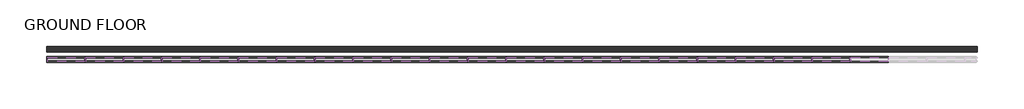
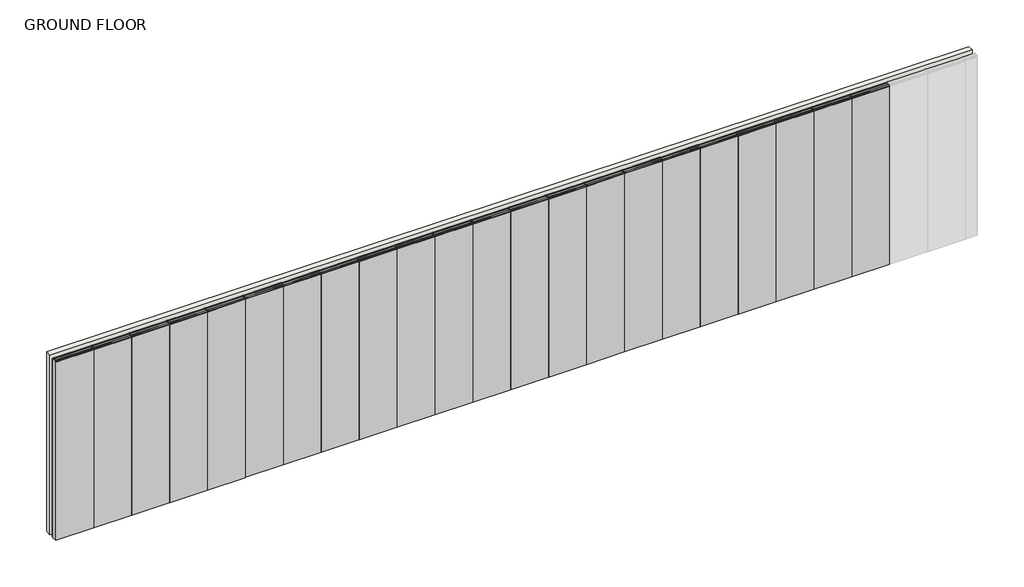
# One storey, part 1 of 2: 64 members, 22 plates, 1 wall.
"""IFC4 building model written with IfcOpenShell, lengths in millimetres."""

from ifc_helpers import new_model, si_unit, origin, origin_with_axes, place, context, project, spatial, polyline, outline, extrude, transform, mapped, element, save
from components import rectangular_mullion_stud_mullion_63mm_af775e70, rectangular_mullion_stud_mullion_63mm_2c4afd4c, rectangular_mullion_stud_mullion_63mm_ab3eab4e, rectangular_mullion_stud_mullion_63mm_08592bac, plate_2_layer_drywall_panels_2_layer_15mm_drywall_panels_7b1b0b35

model = new_model("IFC4")

# Units and contexts
model_context = context("Model", 3, world=origin())
ifc_project = project(units=[si_unit("LENGTHUNIT", "METRE", prefix="MILLI")], contexts=[model_context])

# Site, building, storey
site = spatial("IfcSite", under=ifc_project)
building = spatial("IfcBuilding", under=site)
storey = spatial("IfcBuildingStorey", under=building, Name="GROUND FLOOR", Elevation=0.0)

# Members
placement = place(None, origin())
rectangular_mullion_stud_mullion_63mm_shape = rectangular_mullion_stud_mullion_63mm_af775e70(model_context)
element("IfcMember", 1, ObjectType="Rectangular Mullion : Stud Mullion - 63mm", at=placement, inside=storey, context=model_context, shape_type="MappedRepresentation", body=[
    mapped(rectangular_mullion_stud_mullion_63mm_shape, transform((61654.5186508, -37259.4010443, 0.0), x_axis=(0.0, 0.0, -1.0), y_axis=(0.0, -1.0, 0.0), z_axis=(-1.0, 0.0, 0.0))),
])
element("IfcMember", 2, ObjectType="Rectangular Mullion : Stud Mullion - 63mm", at=placement, inside=storey, context=model_context, shape_type="MappedRepresentation", body=[
    mapped(rectangular_mullion_stud_mullion_63mm_shape, transform((62254.5186511, -37259.4010443, 0.0), x_axis=(0.0, 0.0, -1.0), y_axis=(0.0, -1.0, 0.0), z_axis=(-1.0, 0.0, 0.0))),
])
element("IfcMember", 3, ObjectType="Rectangular Mullion : Stud Mullion - 63mm", at=placement, inside=storey, context=model_context, shape_type="MappedRepresentation", body=[
    mapped(rectangular_mullion_stud_mullion_63mm_shape, transform((62854.5186511, -37259.4010443, 0.0), x_axis=(0.0, 0.0, -1.0), y_axis=(0.0, -1.0, 0.0), z_axis=(-1.0, 0.0, 0.0))),
])
element("IfcMember", 4, ObjectType="Rectangular Mullion : Stud Mullion - 63mm", at=placement, inside=storey, context=model_context, shape_type="MappedRepresentation", body=[
    mapped(rectangular_mullion_stud_mullion_63mm_shape, transform((63454.5186511, -37259.4010443, 0.0), x_axis=(0.0, 0.0, -1.0), y_axis=(0.0, -1.0, 0.0), z_axis=(-1.0, 0.0, 0.0))),
])
element("IfcMember", 5, ObjectType="Rectangular Mullion : Stud Mullion - 63mm", at=placement, inside=storey, context=model_context, shape_type="MappedRepresentation", body=[
    mapped(rectangular_mullion_stud_mullion_63mm_shape, transform((64054.5186511, -37259.4010443, 0.0), x_axis=(0.0, 0.0, -1.0), y_axis=(0.0, -1.0, 0.0), z_axis=(-1.0, 0.0, 0.0))),
])
element("IfcMember", 6, ObjectType="Rectangular Mullion : Stud Mullion - 63mm", at=placement, inside=storey, context=model_context, shape_type="MappedRepresentation", body=[
    mapped(rectangular_mullion_stud_mullion_63mm_shape, transform((64654.5186511, -37259.4010443, 0.0), x_axis=(0.0, 0.0, -1.0), y_axis=(0.0, -1.0, 0.0), z_axis=(-1.0, 0.0, 0.0))),
])
element("IfcMember", 7, ObjectType="Rectangular Mullion : Stud Mullion - 63mm", at=placement, inside=storey, context=model_context, shape_type="MappedRepresentation", body=[
    mapped(rectangular_mullion_stud_mullion_63mm_shape, transform((65254.5186511, -37259.4010443, 0.0), x_axis=(0.0, 0.0, -1.0), y_axis=(0.0, -1.0, 0.0), z_axis=(-1.0, 0.0, 0.0))),
])
element("IfcMember", 8, ObjectType="Rectangular Mullion : Stud Mullion - 63mm", at=placement, inside=storey, context=model_context, shape_type="MappedRepresentation", body=[
    mapped(rectangular_mullion_stud_mullion_63mm_shape, transform((65854.5186511, -37259.4010443, 0.0), x_axis=(0.0, 0.0, -1.0), y_axis=(0.0, -1.0, 0.0), z_axis=(-1.0, 0.0, 0.0))),
])
element("IfcMember", 9, ObjectType="Rectangular Mullion : Stud Mullion - 63mm", at=placement, inside=storey, context=model_context, shape_type="MappedRepresentation", body=[
    mapped(rectangular_mullion_stud_mullion_63mm_shape, transform((66454.5186511, -37259.4010443, 0.0), x_axis=(0.0, 0.0, -1.0), y_axis=(0.0, -1.0, 0.0), z_axis=(-1.0, 0.0, 0.0))),
])
element("IfcMember", 10, ObjectType="Rectangular Mullion : Stud Mullion - 63mm", at=placement, inside=storey, context=model_context, shape_type="MappedRepresentation", body=[
    mapped(rectangular_mullion_stud_mullion_63mm_shape, transform((67054.5186511, -37259.4010443, 0.0), x_axis=(0.0, 0.0, -1.0), y_axis=(0.0, -1.0, 0.0), z_axis=(-1.0, 0.0, 0.0))),
])
element("IfcMember", 11, ObjectType="Rectangular Mullion : Stud Mullion - 63mm", at=placement, inside=storey, context=model_context, shape_type="MappedRepresentation", body=[
    mapped(rectangular_mullion_stud_mullion_63mm_shape, transform((67654.5186511, -37259.4010443, 0.0), x_axis=(0.0, 0.0, -1.0), y_axis=(0.0, -1.0, 0.0), z_axis=(-1.0, 0.0, 0.0))),
])
element("IfcMember", 12, ObjectType="Rectangular Mullion : Stud Mullion - 63mm", at=placement, inside=storey, context=model_context, shape_type="MappedRepresentation", body=[
    mapped(rectangular_mullion_stud_mullion_63mm_shape, transform((68254.5186511, -37259.4010443, 0.0), x_axis=(0.0, 0.0, -1.0), y_axis=(0.0, -1.0, 0.0), z_axis=(-1.0, 0.0, 0.0))),
])
element("IfcMember", 13, ObjectType="Rectangular Mullion : Stud Mullion - 63mm", at=placement, inside=storey, context=model_context, shape_type="MappedRepresentation", body=[
    mapped(rectangular_mullion_stud_mullion_63mm_shape, transform((68854.5186511, -37259.4010443, 0.0), x_axis=(0.0, 0.0, -1.0), y_axis=(0.0, -1.0, 0.0), z_axis=(-1.0, 0.0, 0.0))),
])
element("IfcMember", 14, ObjectType="Rectangular Mullion : Stud Mullion - 63mm", at=placement, inside=storey, context=model_context, shape_type="MappedRepresentation", body=[
    mapped(rectangular_mullion_stud_mullion_63mm_shape, transform((69454.5186511, -37259.4010443, 0.0), x_axis=(0.0, 0.0, -1.0), y_axis=(0.0, -1.0, 0.0), z_axis=(-1.0, 0.0, 0.0))),
])
element("IfcMember", 15, ObjectType="Rectangular Mullion : Stud Mullion - 63mm", at=placement, inside=storey, context=model_context, shape_type="MappedRepresentation", body=[
    mapped(rectangular_mullion_stud_mullion_63mm_shape, transform((70054.5186511, -37259.4010443, 0.0), x_axis=(0.0, 0.0, -1.0), y_axis=(0.0, -1.0, 0.0), z_axis=(-1.0, 0.0, 0.0))),
])
element("IfcMember", 16, ObjectType="Rectangular Mullion : Stud Mullion - 63mm", at=placement, inside=storey, context=model_context, shape_type="MappedRepresentation", body=[
    mapped(rectangular_mullion_stud_mullion_63mm_shape, transform((70654.5186511, -37259.4010443, 0.0), x_axis=(0.0, 0.0, -1.0), y_axis=(0.0, -1.0, 0.0), z_axis=(-1.0, 0.0, 0.0))),
])
element("IfcMember", 17, ObjectType="Rectangular Mullion : Stud Mullion - 63mm", at=placement, inside=storey, context=model_context, shape_type="MappedRepresentation", body=[
    mapped(rectangular_mullion_stud_mullion_63mm_shape, transform((71254.5186511, -37259.4010443, 0.0), x_axis=(0.0, 0.0, -1.0), y_axis=(0.0, -1.0, 0.0), z_axis=(-1.0, 0.0, 0.0))),
])
element("IfcMember", 18, ObjectType="Rectangular Mullion : Stud Mullion - 63mm", at=placement, inside=storey, context=model_context, shape_type="MappedRepresentation", body=[
    mapped(rectangular_mullion_stud_mullion_63mm_shape, transform((71854.5186511, -37259.4010443, 0.0), x_axis=(0.0, 0.0, -1.0), y_axis=(0.0, -1.0, 0.0), z_axis=(-1.0, 0.0, 0.0))),
])
element("IfcMember", 19, ObjectType="Rectangular Mullion : Stud Mullion - 63mm", at=placement, inside=storey, context=model_context, shape_type="MappedRepresentation", body=[
    mapped(rectangular_mullion_stud_mullion_63mm_shape, transform((72454.5186511, -37259.4010443, 0.0), x_axis=(0.0, 0.0, -1.0), y_axis=(0.0, -1.0, 0.0), z_axis=(-1.0, 0.0, 0.0))),
])
element("IfcMember", 20, ObjectType="Rectangular Mullion : Stud Mullion - 63mm", at=placement, inside=storey, context=model_context, shape_type="MappedRepresentation", body=[
    mapped(rectangular_mullion_stud_mullion_63mm_shape, transform((73054.5186511, -37259.4010443, 0.0), x_axis=(0.0, 0.0, -1.0), y_axis=(0.0, -1.0, 0.0), z_axis=(-1.0, 0.0, 0.0))),
])
element("IfcMember", 21, ObjectType="Rectangular Mullion : Stud Mullion - 63mm", at=placement, inside=storey, context=model_context, shape_type="MappedRepresentation", body=[
    mapped(rectangular_mullion_stud_mullion_63mm_shape, transform((73654.5186511, -37259.4010443, 0.0), x_axis=(0.0, 0.0, -1.0), y_axis=(0.0, -1.0, 0.0), z_axis=(-1.0, 0.0, 0.0))),
])
rectangular_mullion_stud_mullion_63mm_2_shape = rectangular_mullion_stud_mullion_63mm_2c4afd4c(model_context)
element("IfcMember", 22, ObjectType="Rectangular Mullion : Stud Mullion - 63mm", at=placement, inside=storey, context=model_context, shape_type="MappedRepresentation", body=[
    mapped(rectangular_mullion_stud_mullion_63mm_2_shape, transform((61635.5186508, -37259.4010443, 3000.0), x_axis=(-1.0, 0.0, 0.0), y_axis=(0.0, -1.0, 0.0), z_axis=(0.0, 0.0, 1.0))),
])
rectangular_mullion_stud_mullion_63mm_3_shape = rectangular_mullion_stud_mullion_63mm_ab3eab4e(model_context)
element("IfcMember", 23, ObjectType="Rectangular Mullion : Stud Mullion - 63mm", at=placement, inside=storey, context=model_context, shape_type="MappedRepresentation", body=[
    mapped(rectangular_mullion_stud_mullion_63mm_3_shape, transform((62235.5186511, -37259.4010443, 3000.0), x_axis=(0.0, 0.0, 1.0), y_axis=(0.0, -1.0, 0.0), z_axis=(1.0, 0.0, 0.0))),
])
element("IfcMember", 24, ObjectType="Rectangular Mullion : Stud Mullion - 63mm", at=placement, inside=storey, context=model_context, shape_type="MappedRepresentation", body=[
    mapped(rectangular_mullion_stud_mullion_63mm_3_shape, transform((62835.5186511, -37259.4010443, 3000.0), x_axis=(0.0, 0.0, 1.0), y_axis=(0.0, -1.0, 0.0), z_axis=(1.0, 0.0, 0.0))),
])
element("IfcMember", 25, ObjectType="Rectangular Mullion : Stud Mullion - 63mm", at=placement, inside=storey, context=model_context, shape_type="MappedRepresentation", body=[
    mapped(rectangular_mullion_stud_mullion_63mm_3_shape, transform((63435.5186511, -37259.4010443, 3000.0), x_axis=(0.0, 0.0, 1.0), y_axis=(0.0, -1.0, 0.0), z_axis=(1.0, 0.0, 0.0))),
])
element("IfcMember", 26, ObjectType="Rectangular Mullion : Stud Mullion - 63mm", at=placement, inside=storey, context=model_context, shape_type="MappedRepresentation", body=[
    mapped(rectangular_mullion_stud_mullion_63mm_3_shape, transform((64035.5186511, -37259.4010443, 3000.0), x_axis=(0.0, 0.0, 1.0), y_axis=(0.0, -1.0, 0.0), z_axis=(1.0, 0.0, 0.0))),
])
element("IfcMember", 27, ObjectType="Rectangular Mullion : Stud Mullion - 63mm", at=placement, inside=storey, context=model_context, shape_type="MappedRepresentation", body=[
    mapped(rectangular_mullion_stud_mullion_63mm_3_shape, transform((64635.5186511, -37259.4010443, 3000.0), x_axis=(0.0, 0.0, 1.0), y_axis=(0.0, -1.0, 0.0), z_axis=(1.0, 0.0, 0.0))),
])
element("IfcMember", 28, ObjectType="Rectangular Mullion : Stud Mullion - 63mm", at=placement, inside=storey, context=model_context, shape_type="MappedRepresentation", body=[
    mapped(rectangular_mullion_stud_mullion_63mm_3_shape, transform((65235.5186511, -37259.4010443, 3000.0), x_axis=(0.0, 0.0, 1.0), y_axis=(0.0, -1.0, 0.0), z_axis=(1.0, 0.0, 0.0))),
])
element("IfcMember", 29, ObjectType="Rectangular Mullion : Stud Mullion - 63mm", at=placement, inside=storey, context=model_context, shape_type="MappedRepresentation", body=[
    mapped(rectangular_mullion_stud_mullion_63mm_3_shape, transform((65835.5186511, -37259.4010443, 3000.0), x_axis=(0.0, 0.0, 1.0), y_axis=(0.0, -1.0, 0.0), z_axis=(1.0, 0.0, 0.0))),
])
element("IfcMember", 30, ObjectType="Rectangular Mullion : Stud Mullion - 63mm", at=placement, inside=storey, context=model_context, shape_type="MappedRepresentation", body=[
    mapped(rectangular_mullion_stud_mullion_63mm_3_shape, transform((66435.5186511, -37259.4010443, 3000.0), x_axis=(0.0, 0.0, 1.0), y_axis=(0.0, -1.0, 0.0), z_axis=(1.0, 0.0, 0.0))),
])
element("IfcMember", 31, ObjectType="Rectangular Mullion : Stud Mullion - 63mm", at=placement, inside=storey, context=model_context, shape_type="MappedRepresentation", body=[
    mapped(rectangular_mullion_stud_mullion_63mm_3_shape, transform((67035.5186511, -37259.4010443, 3000.0), x_axis=(0.0, 0.0, 1.0), y_axis=(0.0, -1.0, 0.0), z_axis=(1.0, 0.0, 0.0))),
])
element("IfcMember", 32, ObjectType="Rectangular Mullion : Stud Mullion - 63mm", at=placement, inside=storey, context=model_context, shape_type="MappedRepresentation", body=[
    mapped(rectangular_mullion_stud_mullion_63mm_3_shape, transform((67635.5186511, -37259.4010443, 3000.0), x_axis=(0.0, 0.0, 1.0), y_axis=(0.0, -1.0, 0.0), z_axis=(1.0, 0.0, 0.0))),
])
element("IfcMember", 33, ObjectType="Rectangular Mullion : Stud Mullion - 63mm", at=placement, inside=storey, context=model_context, shape_type="MappedRepresentation", body=[
    mapped(rectangular_mullion_stud_mullion_63mm_3_shape, transform((68235.5186511, -37259.4010443, 3000.0), x_axis=(0.0, 0.0, 1.0), y_axis=(0.0, -1.0, 0.0), z_axis=(1.0, 0.0, 0.0))),
])
element("IfcMember", 34, ObjectType="Rectangular Mullion : Stud Mullion - 63mm", at=placement, inside=storey, context=model_context, shape_type="MappedRepresentation", body=[
    mapped(rectangular_mullion_stud_mullion_63mm_3_shape, transform((68835.5186511, -37259.4010443, 3000.0), x_axis=(0.0, 0.0, 1.0), y_axis=(0.0, -1.0, 0.0), z_axis=(1.0, 0.0, 0.0))),
])
element("IfcMember", 35, ObjectType="Rectangular Mullion : Stud Mullion - 63mm", at=placement, inside=storey, context=model_context, shape_type="MappedRepresentation", body=[
    mapped(rectangular_mullion_stud_mullion_63mm_3_shape, transform((69435.5186511, -37259.4010443, 3000.0), x_axis=(0.0, 0.0, 1.0), y_axis=(0.0, -1.0, 0.0), z_axis=(1.0, 0.0, 0.0))),
])
element("IfcMember", 36, ObjectType="Rectangular Mullion : Stud Mullion - 63mm", at=placement, inside=storey, context=model_context, shape_type="MappedRepresentation", body=[
    mapped(rectangular_mullion_stud_mullion_63mm_3_shape, transform((70035.5186511, -37259.4010443, 3000.0), x_axis=(0.0, 0.0, 1.0), y_axis=(0.0, -1.0, 0.0), z_axis=(1.0, 0.0, 0.0))),
])
element("IfcMember", 37, ObjectType="Rectangular Mullion : Stud Mullion - 63mm", at=placement, inside=storey, context=model_context, shape_type="MappedRepresentation", body=[
    mapped(rectangular_mullion_stud_mullion_63mm_3_shape, transform((70635.5186511, -37259.4010443, 3000.0), x_axis=(0.0, 0.0, 1.0), y_axis=(0.0, -1.0, 0.0), z_axis=(1.0, 0.0, 0.0))),
])
element("IfcMember", 38, ObjectType="Rectangular Mullion : Stud Mullion - 63mm", at=placement, inside=storey, context=model_context, shape_type="MappedRepresentation", body=[
    mapped(rectangular_mullion_stud_mullion_63mm_3_shape, transform((71235.5186511, -37259.4010443, 3000.0), x_axis=(0.0, 0.0, 1.0), y_axis=(0.0, -1.0, 0.0), z_axis=(1.0, 0.0, 0.0))),
])
element("IfcMember", 39, ObjectType="Rectangular Mullion : Stud Mullion - 63mm", at=placement, inside=storey, context=model_context, shape_type="MappedRepresentation", body=[
    mapped(rectangular_mullion_stud_mullion_63mm_3_shape, transform((71835.5186511, -37259.4010443, 3000.0), x_axis=(0.0, 0.0, 1.0), y_axis=(0.0, -1.0, 0.0), z_axis=(1.0, 0.0, 0.0))),
])
element("IfcMember", 40, ObjectType="Rectangular Mullion : Stud Mullion - 63mm", at=placement, inside=storey, context=model_context, shape_type="MappedRepresentation", body=[
    mapped(rectangular_mullion_stud_mullion_63mm_3_shape, transform((72435.5186511, -37259.4010443, 3000.0), x_axis=(0.0, 0.0, 1.0), y_axis=(0.0, -1.0, 0.0), z_axis=(1.0, 0.0, 0.0))),
])
element("IfcMember", 41, ObjectType="Rectangular Mullion : Stud Mullion - 63mm", at=placement, inside=storey, context=model_context, shape_type="MappedRepresentation", body=[
    mapped(rectangular_mullion_stud_mullion_63mm_3_shape, transform((73035.5186511, -37259.4010443, 3000.0), x_axis=(0.0, 0.0, 1.0), y_axis=(0.0, -1.0, 0.0), z_axis=(1.0, 0.0, 0.0))),
])
element("IfcMember", 42, ObjectType="Rectangular Mullion : Stud Mullion - 63mm", at=placement, inside=storey, context=model_context, shape_type="MappedRepresentation", body=[
    mapped(rectangular_mullion_stud_mullion_63mm_3_shape, transform((73635.5186511, -37259.4010443, 3000.0), x_axis=(0.0, 0.0, 1.0), y_axis=(0.0, -1.0, 0.0), z_axis=(1.0, 0.0, 0.0))),
])
element("IfcMember", 43, ObjectType="Rectangular Mullion : Stud Mullion - 63mm", at=placement, inside=storey, context=model_context, shape_type="MappedRepresentation", body=[
    mapped(rectangular_mullion_stud_mullion_63mm_3_shape, transform((74235.5186511, -37259.4010443, 3000.0), x_axis=(0.0, 0.0, 1.0), y_axis=(0.0, -1.0, 0.0), z_axis=(1.0, 0.0, 0.0))),
])
element("IfcMember", 44, ObjectType="Rectangular Mullion : Stud Mullion - 63mm", at=placement, inside=storey, context=model_context, shape_type="MappedRepresentation", body=[
    mapped(rectangular_mullion_stud_mullion_63mm_3_shape, transform((74835.5186511, -37259.4010443, 3000.0), x_axis=(0.0, 0.0, 1.0), y_axis=(0.0, -1.0, 0.0), z_axis=(1.0, 0.0, 0.0))),
])
rectangular_mullion_stud_mullion_63mm_4_shape = rectangular_mullion_stud_mullion_63mm_08592bac(model_context)
element("IfcMember", 45, ObjectType="Rectangular Mullion : Stud Mullion - 63mm", at=placement, inside=storey, context=model_context, shape_type="MappedRepresentation", body=[
    mapped(rectangular_mullion_stud_mullion_63mm_4_shape, transform((62245.0186511, -37259.4010443, 0.0), x_axis=(1.0, 0.0, 0.0), y_axis=(0.0, -1.0, 0.0), z_axis=(0.0, 0.0, -1.0))),
])
element("IfcMember", 46, ObjectType="Rectangular Mullion : Stud Mullion - 63mm", at=placement, inside=storey, context=model_context, shape_type="MappedRepresentation", body=[
    mapped(rectangular_mullion_stud_mullion_63mm_4_shape, transform((62845.0186511, -37259.4010443, 0.0), x_axis=(1.0, 0.0, 0.0), y_axis=(0.0, -1.0, 0.0), z_axis=(0.0, 0.0, -1.0))),
])
element("IfcMember", 47, ObjectType="Rectangular Mullion : Stud Mullion - 63mm", at=placement, inside=storey, context=model_context, shape_type="MappedRepresentation", body=[
    mapped(rectangular_mullion_stud_mullion_63mm_4_shape, transform((63445.0186511, -37259.4010443, 0.0), x_axis=(1.0, 0.0, 0.0), y_axis=(0.0, -1.0, 0.0), z_axis=(0.0, 0.0, -1.0))),
])
element("IfcMember", 48, ObjectType="Rectangular Mullion : Stud Mullion - 63mm", at=placement, inside=storey, context=model_context, shape_type="MappedRepresentation", body=[
    mapped(rectangular_mullion_stud_mullion_63mm_4_shape, transform((64045.0186511, -37259.4010443, 0.0), x_axis=(1.0, 0.0, 0.0), y_axis=(0.0, -1.0, 0.0), z_axis=(0.0, 0.0, -1.0))),
])
element("IfcMember", 49, ObjectType="Rectangular Mullion : Stud Mullion - 63mm", at=placement, inside=storey, context=model_context, shape_type="MappedRepresentation", body=[
    mapped(rectangular_mullion_stud_mullion_63mm_4_shape, transform((64645.0186511, -37259.4010443, 0.0), x_axis=(1.0, 0.0, 0.0), y_axis=(0.0, -1.0, 0.0), z_axis=(0.0, 0.0, -1.0))),
])
element("IfcMember", 50, ObjectType="Rectangular Mullion : Stud Mullion - 63mm", at=placement, inside=storey, context=model_context, shape_type="MappedRepresentation", body=[
    mapped(rectangular_mullion_stud_mullion_63mm_4_shape, transform((65245.0186511, -37259.4010443, 0.0), x_axis=(1.0, 0.0, 0.0), y_axis=(0.0, -1.0, 0.0), z_axis=(0.0, 0.0, -1.0))),
])
element("IfcMember", 51, ObjectType="Rectangular Mullion : Stud Mullion - 63mm", at=placement, inside=storey, context=model_context, shape_type="MappedRepresentation", body=[
    mapped(rectangular_mullion_stud_mullion_63mm_4_shape, transform((65845.0186511, -37259.4010443, 0.0), x_axis=(1.0, 0.0, 0.0), y_axis=(0.0, -1.0, 0.0), z_axis=(0.0, 0.0, -1.0))),
])
element("IfcMember", 52, ObjectType="Rectangular Mullion : Stud Mullion - 63mm", at=placement, inside=storey, context=model_context, shape_type="MappedRepresentation", body=[
    mapped(rectangular_mullion_stud_mullion_63mm_4_shape, transform((66445.0186511, -37259.4010443, 0.0), x_axis=(1.0, 0.0, 0.0), y_axis=(0.0, -1.0, 0.0), z_axis=(0.0, 0.0, -1.0))),
])
element("IfcMember", 53, ObjectType="Rectangular Mullion : Stud Mullion - 63mm", at=placement, inside=storey, context=model_context, shape_type="MappedRepresentation", body=[
    mapped(rectangular_mullion_stud_mullion_63mm_4_shape, transform((67045.0186511, -37259.4010443, 0.0), x_axis=(1.0, 0.0, 0.0), y_axis=(0.0, -1.0, 0.0), z_axis=(0.0, 0.0, -1.0))),
])
element("IfcMember", 54, ObjectType="Rectangular Mullion : Stud Mullion - 63mm", at=placement, inside=storey, context=model_context, shape_type="MappedRepresentation", body=[
    mapped(rectangular_mullion_stud_mullion_63mm_4_shape, transform((67645.0186511, -37259.4010443, 0.0), x_axis=(1.0, 0.0, 0.0), y_axis=(0.0, -1.0, 0.0), z_axis=(0.0, 0.0, -1.0))),
])
element("IfcMember", 55, ObjectType="Rectangular Mullion : Stud Mullion - 63mm", at=placement, inside=storey, context=model_context, shape_type="MappedRepresentation", body=[
    mapped(rectangular_mullion_stud_mullion_63mm_4_shape, transform((68245.0186511, -37259.4010443, 0.0), x_axis=(1.0, 0.0, 0.0), y_axis=(0.0, -1.0, 0.0), z_axis=(0.0, 0.0, -1.0))),
])
element("IfcMember", 56, ObjectType="Rectangular Mullion : Stud Mullion - 63mm", at=placement, inside=storey, context=model_context, shape_type="MappedRepresentation", body=[
    mapped(rectangular_mullion_stud_mullion_63mm_4_shape, transform((68845.0186511, -37259.4010443, 0.0), x_axis=(1.0, 0.0, 0.0), y_axis=(0.0, -1.0, 0.0), z_axis=(0.0, 0.0, -1.0))),
])
element("IfcMember", 57, ObjectType="Rectangular Mullion : Stud Mullion - 63mm", at=placement, inside=storey, context=model_context, shape_type="MappedRepresentation", body=[
    mapped(rectangular_mullion_stud_mullion_63mm_4_shape, transform((69445.0186511, -37259.4010443, 0.0), x_axis=(1.0, 0.0, 0.0), y_axis=(0.0, -1.0, 0.0), z_axis=(0.0, 0.0, -1.0))),
])
element("IfcMember", 58, ObjectType="Rectangular Mullion : Stud Mullion - 63mm", at=placement, inside=storey, context=model_context, shape_type="MappedRepresentation", body=[
    mapped(rectangular_mullion_stud_mullion_63mm_4_shape, transform((70045.0186511, -37259.4010443, 0.0), x_axis=(1.0, 0.0, 0.0), y_axis=(0.0, -1.0, 0.0), z_axis=(0.0, 0.0, -1.0))),
])
element("IfcMember", 59, ObjectType="Rectangular Mullion : Stud Mullion - 63mm", at=placement, inside=storey, context=model_context, shape_type="MappedRepresentation", body=[
    mapped(rectangular_mullion_stud_mullion_63mm_4_shape, transform((70645.0186511, -37259.4010443, 0.0), x_axis=(1.0, 0.0, 0.0), y_axis=(0.0, -1.0, 0.0), z_axis=(0.0, 0.0, -1.0))),
])
element("IfcMember", 60, ObjectType="Rectangular Mullion : Stud Mullion - 63mm", at=placement, inside=storey, context=model_context, shape_type="MappedRepresentation", body=[
    mapped(rectangular_mullion_stud_mullion_63mm_4_shape, transform((71245.0186511, -37259.4010443, 0.0), x_axis=(1.0, 0.0, 0.0), y_axis=(0.0, -1.0, 0.0), z_axis=(0.0, 0.0, -1.0))),
])
element("IfcMember", 61, ObjectType="Rectangular Mullion : Stud Mullion - 63mm", at=placement, inside=storey, context=model_context, shape_type="MappedRepresentation", body=[
    mapped(rectangular_mullion_stud_mullion_63mm_4_shape, transform((71845.0186511, -37259.4010443, 0.0), x_axis=(1.0, 0.0, 0.0), y_axis=(0.0, -1.0, 0.0), z_axis=(0.0, 0.0, -1.0))),
])
element("IfcMember", 62, ObjectType="Rectangular Mullion : Stud Mullion - 63mm", at=placement, inside=storey, context=model_context, shape_type="MappedRepresentation", body=[
    mapped(rectangular_mullion_stud_mullion_63mm_4_shape, transform((72445.0186511, -37259.4010443, 0.0), x_axis=(1.0, 0.0, 0.0), y_axis=(0.0, -1.0, 0.0), z_axis=(0.0, 0.0, -1.0))),
])
element("IfcMember", 63, ObjectType="Rectangular Mullion : Stud Mullion - 63mm", at=placement, inside=storey, context=model_context, shape_type="MappedRepresentation", body=[
    mapped(rectangular_mullion_stud_mullion_63mm_4_shape, transform((73045.0186511, -37259.4010443, 0.0), x_axis=(1.0, 0.0, 0.0), y_axis=(0.0, -1.0, 0.0), z_axis=(0.0, 0.0, -1.0))),
])
element("IfcMember", 64, ObjectType="Rectangular Mullion : Stud Mullion - 63mm", at=placement, inside=storey, context=model_context, shape_type="MappedRepresentation", body=[
    mapped(rectangular_mullion_stud_mullion_63mm_4_shape, transform((73645.0186511, -37259.4010443, 0.0), x_axis=(1.0, 0.0, 0.0), y_axis=(0.0, -1.0, 0.0), z_axis=(0.0, 0.0, -1.0))),
])

# Plates
plate_2_layer_drywall_panels_2_layer_15mm_drywall_panels_shape = plate_2_layer_drywall_panels_2_layer_15mm_drywall_panels_7b1b0b35(model_context)
element("IfcPlate", 65, ObjectType="2 Layer - Drywall Panels : 2 Layer - 15mm Drywall Panels 93mm", at=placement, inside=storey, context=model_context, shape_type="MappedRepresentation", body=[
    mapped(plate_2_layer_drywall_panels_2_layer_15mm_drywall_panels_shape, transform((61936.318651, -37259.4010443, 1.6), x_axis=(1.0, 0.0, 0.0), y_axis=(0.0, 1.0, 0.0), z_axis=(0.0, 0.0, 1.0))),
])
element("IfcPlate", 66, ObjectType="2 Layer - Drywall Panels : 2 Layer - 15mm Drywall Panels 93mm", at=placement, inside=storey, context=model_context, shape_type="MappedRepresentation", body=[
    mapped(plate_2_layer_drywall_panels_2_layer_15mm_drywall_panels_shape, transform((62536.3186511, -37259.4010443, 1.6), x_axis=(1.0, 0.0, 0.0), y_axis=(0.0, 1.0, 0.0), z_axis=(0.0, 0.0, 1.0))),
])
element("IfcPlate", 67, ObjectType="2 Layer - Drywall Panels : 2 Layer - 15mm Drywall Panels 93mm", at=placement, inside=storey, context=model_context, shape_type="MappedRepresentation", body=[
    mapped(plate_2_layer_drywall_panels_2_layer_15mm_drywall_panels_shape, transform((63136.3186511, -37259.4010443, 1.6), x_axis=(1.0, 0.0, 0.0), y_axis=(0.0, 1.0, 0.0), z_axis=(0.0, 0.0, 1.0))),
])
element("IfcPlate", 68, ObjectType="2 Layer - Drywall Panels : 2 Layer - 15mm Drywall Panels 93mm", at=placement, inside=storey, context=model_context, shape_type="MappedRepresentation", body=[
    mapped(plate_2_layer_drywall_panels_2_layer_15mm_drywall_panels_shape, transform((63736.3186511, -37259.4010443, 1.6), x_axis=(1.0, 0.0, 0.0), y_axis=(0.0, 1.0, 0.0), z_axis=(0.0, 0.0, 1.0))),
])
element("IfcPlate", 69, ObjectType="2 Layer - Drywall Panels : 2 Layer - 15mm Drywall Panels 93mm", at=placement, inside=storey, context=model_context, shape_type="MappedRepresentation", body=[
    mapped(plate_2_layer_drywall_panels_2_layer_15mm_drywall_panels_shape, transform((64336.3186511, -37259.4010443, 1.6), x_axis=(1.0, 0.0, 0.0), y_axis=(0.0, 1.0, 0.0), z_axis=(0.0, 0.0, 1.0))),
])
element("IfcPlate", 70, ObjectType="2 Layer - Drywall Panels : 2 Layer - 15mm Drywall Panels 93mm", at=placement, inside=storey, context=model_context, shape_type="MappedRepresentation", body=[
    mapped(plate_2_layer_drywall_panels_2_layer_15mm_drywall_panels_shape, transform((64936.3186511, -37259.4010443, 1.6), x_axis=(1.0, 0.0, 0.0), y_axis=(0.0, 1.0, 0.0), z_axis=(0.0, 0.0, 1.0))),
])
element("IfcPlate", 71, ObjectType="2 Layer - Drywall Panels : 2 Layer - 15mm Drywall Panels 93mm", at=placement, inside=storey, context=model_context, shape_type="MappedRepresentation", body=[
    mapped(plate_2_layer_drywall_panels_2_layer_15mm_drywall_panels_shape, transform((65536.3186511, -37259.4010443, 1.6), x_axis=(1.0, 0.0, 0.0), y_axis=(0.0, 1.0, 0.0), z_axis=(0.0, 0.0, 1.0))),
])
element("IfcPlate", 72, ObjectType="2 Layer - Drywall Panels : 2 Layer - 15mm Drywall Panels 93mm", at=placement, inside=storey, context=model_context, shape_type="MappedRepresentation", body=[
    mapped(plate_2_layer_drywall_panels_2_layer_15mm_drywall_panels_shape, transform((66136.3186511, -37259.4010443, 1.6), x_axis=(1.0, 0.0, 0.0), y_axis=(0.0, 1.0, 0.0), z_axis=(0.0, 0.0, 1.0))),
])
element("IfcPlate", 73, ObjectType="2 Layer - Drywall Panels : 2 Layer - 15mm Drywall Panels 93mm", at=placement, inside=storey, context=model_context, shape_type="MappedRepresentation", body=[
    mapped(plate_2_layer_drywall_panels_2_layer_15mm_drywall_panels_shape, transform((66736.3186511, -37259.4010443, 1.6), x_axis=(1.0, 0.0, 0.0), y_axis=(0.0, 1.0, 0.0), z_axis=(0.0, 0.0, 1.0))),
])
element("IfcPlate", 74, ObjectType="2 Layer - Drywall Panels : 2 Layer - 15mm Drywall Panels 93mm", at=placement, inside=storey, context=model_context, shape_type="MappedRepresentation", body=[
    mapped(plate_2_layer_drywall_panels_2_layer_15mm_drywall_panels_shape, transform((67336.3186511, -37259.4010443, 1.6), x_axis=(1.0, 0.0, 0.0), y_axis=(0.0, 1.0, 0.0), z_axis=(0.0, 0.0, 1.0))),
])
element("IfcPlate", 75, ObjectType="2 Layer - Drywall Panels : 2 Layer - 15mm Drywall Panels 93mm", at=placement, inside=storey, context=model_context, shape_type="MappedRepresentation", body=[
    mapped(plate_2_layer_drywall_panels_2_layer_15mm_drywall_panels_shape, transform((67936.3186511, -37259.4010443, 1.6), x_axis=(1.0, 0.0, 0.0), y_axis=(0.0, 1.0, 0.0), z_axis=(0.0, 0.0, 1.0))),
])
element("IfcPlate", 76, ObjectType="2 Layer - Drywall Panels : 2 Layer - 15mm Drywall Panels 93mm", at=placement, inside=storey, context=model_context, shape_type="MappedRepresentation", body=[
    mapped(plate_2_layer_drywall_panels_2_layer_15mm_drywall_panels_shape, transform((68536.3186511, -37259.4010443, 1.6), x_axis=(1.0, 0.0, 0.0), y_axis=(0.0, 1.0, 0.0), z_axis=(0.0, 0.0, 1.0))),
])
element("IfcPlate", 77, ObjectType="2 Layer - Drywall Panels : 2 Layer - 15mm Drywall Panels 93mm", at=placement, inside=storey, context=model_context, shape_type="MappedRepresentation", body=[
    mapped(plate_2_layer_drywall_panels_2_layer_15mm_drywall_panels_shape, transform((69136.3186511, -37259.4010443, 1.6), x_axis=(1.0, 0.0, 0.0), y_axis=(0.0, 1.0, 0.0), z_axis=(0.0, 0.0, 1.0))),
])
element("IfcPlate", 78, ObjectType="2 Layer - Drywall Panels : 2 Layer - 15mm Drywall Panels 93mm", at=placement, inside=storey, context=model_context, shape_type="MappedRepresentation", body=[
    mapped(plate_2_layer_drywall_panels_2_layer_15mm_drywall_panels_shape, transform((69736.3186511, -37259.4010443, 1.6), x_axis=(1.0, 0.0, 0.0), y_axis=(0.0, 1.0, 0.0), z_axis=(0.0, 0.0, 1.0))),
])
element("IfcPlate", 79, ObjectType="2 Layer - Drywall Panels : 2 Layer - 15mm Drywall Panels 93mm", at=placement, inside=storey, context=model_context, shape_type="MappedRepresentation", body=[
    mapped(plate_2_layer_drywall_panels_2_layer_15mm_drywall_panels_shape, transform((70336.3186511, -37259.4010443, 1.6), x_axis=(1.0, 0.0, 0.0), y_axis=(0.0, 1.0, 0.0), z_axis=(0.0, 0.0, 1.0))),
])
element("IfcPlate", 80, ObjectType="2 Layer - Drywall Panels : 2 Layer - 15mm Drywall Panels 93mm", at=placement, inside=storey, context=model_context, shape_type="MappedRepresentation", body=[
    mapped(plate_2_layer_drywall_panels_2_layer_15mm_drywall_panels_shape, transform((70936.3186511, -37259.4010443, 1.6), x_axis=(1.0, 0.0, 0.0), y_axis=(0.0, 1.0, 0.0), z_axis=(0.0, 0.0, 1.0))),
])
element("IfcPlate", 81, ObjectType="2 Layer - Drywall Panels : 2 Layer - 15mm Drywall Panels 93mm", at=placement, inside=storey, context=model_context, shape_type="MappedRepresentation", body=[
    mapped(plate_2_layer_drywall_panels_2_layer_15mm_drywall_panels_shape, transform((71536.3186511, -37259.4010443, 1.6), x_axis=(1.0, 0.0, 0.0), y_axis=(0.0, 1.0, 0.0), z_axis=(0.0, 0.0, 1.0))),
])
element("IfcPlate", 82, ObjectType="2 Layer - Drywall Panels : 2 Layer - 15mm Drywall Panels 93mm", at=placement, inside=storey, context=model_context, shape_type="MappedRepresentation", body=[
    mapped(plate_2_layer_drywall_panels_2_layer_15mm_drywall_panels_shape, transform((72136.3186511, -37259.4010443, 1.6), x_axis=(1.0, 0.0, 0.0), y_axis=(0.0, 1.0, 0.0), z_axis=(0.0, 0.0, 1.0))),
])
element("IfcPlate", 83, ObjectType="2 Layer - Drywall Panels : 2 Layer - 15mm Drywall Panels 93mm", at=placement, inside=storey, context=model_context, shape_type="MappedRepresentation", body=[
    mapped(plate_2_layer_drywall_panels_2_layer_15mm_drywall_panels_shape, transform((72736.3186511, -37259.4010443, 1.6), x_axis=(1.0, 0.0, 0.0), y_axis=(0.0, 1.0, 0.0), z_axis=(0.0, 0.0, 1.0))),
])
element("IfcPlate", 84, ObjectType="2 Layer - Drywall Panels : 2 Layer - 15mm Drywall Panels 93mm", at=placement, inside=storey, context=model_context, shape_type="MappedRepresentation", body=[
    mapped(plate_2_layer_drywall_panels_2_layer_15mm_drywall_panels_shape, transform((73336.3186511, -37259.4010443, 1.6), x_axis=(1.0, 0.0, 0.0), y_axis=(0.0, 1.0, 0.0), z_axis=(0.0, 0.0, 1.0))),
])
element("IfcPlate", 85, ObjectType="2 Layer - Drywall Panels : 2 Layer - 15mm Drywall Panels 93mm", at=placement, inside=storey, context=model_context, shape_type="MappedRepresentation", body=[
    mapped(plate_2_layer_drywall_panels_2_layer_15mm_drywall_panels_shape, transform((73936.3186511, -37259.4010443, 1.6), x_axis=(1.0, 0.0, 0.0), y_axis=(0.0, 1.0, 0.0), z_axis=(0.0, 0.0, 1.0))),
])
element("IfcPlate", 86, ObjectType="2 Layer - Drywall Panels : 2 Layer - 15mm Drywall Panels 93mm", at=placement, inside=storey, context=model_context, shape_type="MappedRepresentation", body=[
    mapped(plate_2_layer_drywall_panels_2_layer_15mm_drywall_panels_shape, transform((74536.3186511, -37259.4010443, 1.6), x_axis=(1.0, 0.0, 0.0), y_axis=(0.0, 1.0, 0.0), z_axis=(0.0, 0.0, 1.0))),
])

# Wall
element("IfcWall", 87, ObjectType="PW08 - JUMBO AcousticWALL 63/60/S44", at=placement, inside=storey, context=model_context, shape_type="SweptSolid", body=[
    extrude(outline(polyline([(76235.5186508, -37145.9010443), (61635.5186508, -37145.9010443), (61635.5186508, -37052.9010443), (76235.5186508, -37052.9010443), (76235.5186508, -37145.9010443)])), origin_with_axes(), (0.0, 0.0, 1.0), 3000.0),
])

save(model, "model.ifc")
